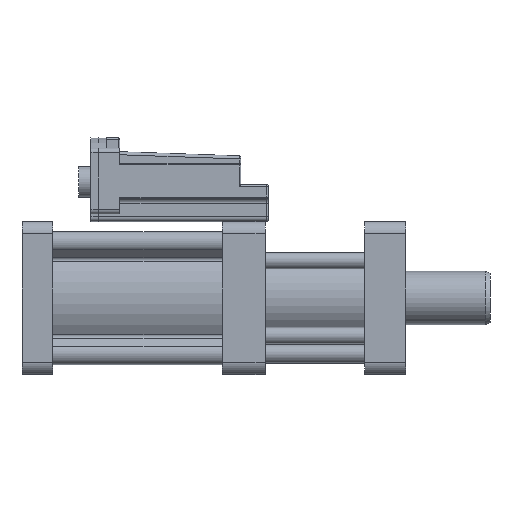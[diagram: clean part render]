
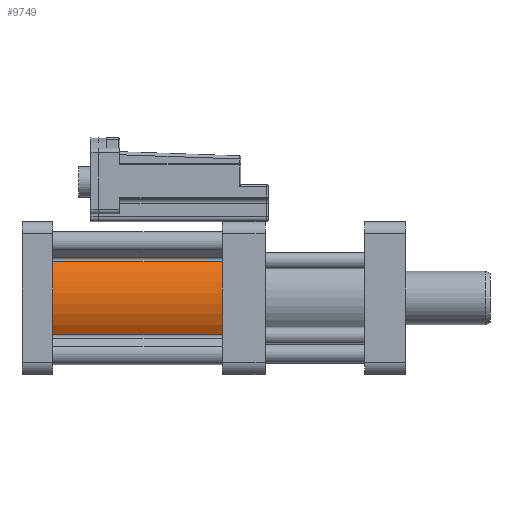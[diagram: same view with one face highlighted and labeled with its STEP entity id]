
A CAD part, left-side view. The second image highlights one B-rep face of the part: STEP entity #9749.
In plain terms, the highlighted cylindrical face has radius 43 mm (diameter 86 mm), a partial arc.
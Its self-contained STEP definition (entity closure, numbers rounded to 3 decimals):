
#1291 = CYLINDRICAL_SURFACE ( 'NONE', #9298, 43. ) ;
#1447 = VECTOR ( 'NONE', #16151, 1000. ) ;
#1958 = ORIENTED_EDGE ( 'NONE', *, *, #9237, .T. ) ;
#2153 = EDGE_CURVE ( 'NONE', #15986, #4891, #13627, .T. ) ;
#2537 = CIRCLE ( 'NONE', #3254, 43. ) ;
#3254 = AXIS2_PLACEMENT_3D ( 'NONE', #5029, #13738, #6280 ) ;
#3633 = CARTESIAN_POINT ( 'NONE',  ( -35.872, 153.037, -26.29 ) ) ;
#4564 = DIRECTION ( 'NONE',  ( 0., 1., 0. ) ) ;
#4891 = VERTEX_POINT ( 'NONE', #5778 ) ;
#5029 = CARTESIAN_POINT ( 'NONE',  ( 0., -81., -50. ) ) ;
#5630 = EDGE_LOOP ( 'NONE', ( #11039, #1958, #12153, #11087 ) ) ;
#5655 = CARTESIAN_POINT ( 'NONE',  ( -35.872, 153.037, -73.71 ) ) ;
#5778 = CARTESIAN_POINT ( 'NONE',  ( -35.872, 30., -26.29 ) ) ;
#6280 = DIRECTION ( 'NONE',  ( 0., 0., 1. ) ) ;
#6912 = DIRECTION ( 'NONE',  ( 0., -1., 0. ) ) ;
#7509 = CARTESIAN_POINT ( 'NONE',  ( -35.872, 30., -73.71 ) ) ;
#8223 = CARTESIAN_POINT ( 'NONE',  ( 0., 153.037, -50. ) ) ;
#8323 = AXIS2_PLACEMENT_3D ( 'NONE', #12023, #4564, #13273 ) ;
#9237 = EDGE_CURVE ( 'NONE', #15986, #12918, #15571, .T. ) ;
#9298 = AXIS2_PLACEMENT_3D ( 'NONE', #8223, #15712, #13170 ) ;
#9749 = ADVANCED_FACE ( 'NONE', ( #11240 ), #1291, .T. ) ;
#11007 = EDGE_CURVE ( 'NONE', #12918, #11408, #2537, .T. ) ;
#11039 = ORIENTED_EDGE ( 'NONE', *, *, #2153, .F. ) ;
#11087 = ORIENTED_EDGE ( 'NONE', *, *, #14270, .F. ) ;
#11240 = FACE_OUTER_BOUND ( 'NONE', #5630, .T. ) ;
#11402 = LINE ( 'NONE', #3633, #1447 ) ;
#11408 = VERTEX_POINT ( 'NONE', #13400 ) ;
#12023 = CARTESIAN_POINT ( 'NONE',  ( 0., 30., -50. ) ) ;
#12153 = ORIENTED_EDGE ( 'NONE', *, *, #11007, .T. ) ;
#12209 = VECTOR ( 'NONE', #6912, 1000. ) ;
#12459 = CARTESIAN_POINT ( 'NONE',  ( -35.872, -81., -73.71 ) ) ;
#12918 = VERTEX_POINT ( 'NONE', #12459 ) ;
#13170 = DIRECTION ( 'NONE',  ( 0., 0., -1. ) ) ;
#13273 = DIRECTION ( 'NONE',  ( 0., 0., 1. ) ) ;
#13400 = CARTESIAN_POINT ( 'NONE',  ( -35.872, -81., -26.29 ) ) ;
#13627 = CIRCLE ( 'NONE', #8323, 43. ) ;
#13738 = DIRECTION ( 'NONE',  ( 0., 1., 0. ) ) ;
#14270 = EDGE_CURVE ( 'NONE', #4891, #11408, #11402, .T. ) ;
#15571 = LINE ( 'NONE', #5655, #12209 ) ;
#15712 = DIRECTION ( 'NONE',  ( 0., -1., 0. ) ) ;
#15986 = VERTEX_POINT ( 'NONE', #7509 ) ;
#16151 = DIRECTION ( 'NONE',  ( 0., -1., 0. ) ) ;
